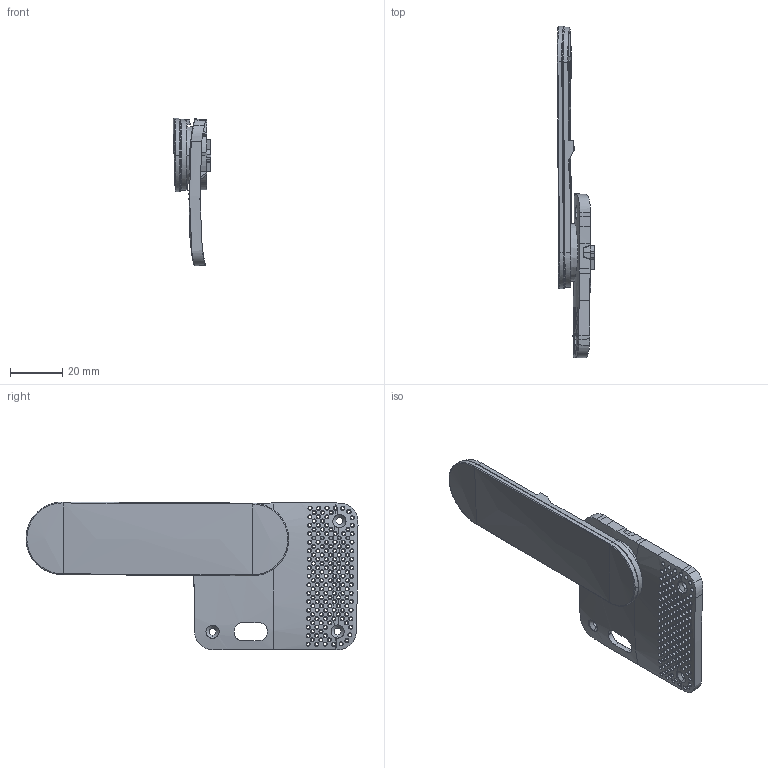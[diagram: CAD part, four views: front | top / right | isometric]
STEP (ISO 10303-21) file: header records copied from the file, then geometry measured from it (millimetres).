
FILE_DESCRIPTION (( 'STEP AP203' ), '1' );
FILE_NAME ('2002-03698_Head_Strap_Anchor_Point_-_R_(Simplified)_00.step', '2024-10-25T10:35:46', ( '' ), ( '' ), 'SwSTEP 2.0', 'SolidWorks 2021', '' );
FILE_SCHEMA (( 'CONFIG_CONTROL_DESIGN' ));
Products named in the file (3): 2002-0006577; 2002-03698_Head_Strap_Anchor_Point_-_R_(Simplified)_00; 2002-0003739
Assembly tree (2 placements, depth 2):
  2002-03698_Head_Strap_Anchor_Point_-_R_(Simplified)_00
    2002-0003739
    2002-0006577
Bounding box: 14.43 x 126.62 x 56.38 mm (x, y, z)
Volume: 15481.9 mm3; surface area: 19273.8 mm2
Topology: 2 solids, 2 shells, 1086 faces, 3100 edges, 2043 vertices
Faces by surface type: bspline 815, plane 183, cone 80, cylinder 8
Entity records: 85931 total; most frequent: CARTESIAN_POINT 63871, ORIENTED_EDGE 6196, EDGE_CURVE 3098, B_SPLINE_CURVE_WITH_KNOTS 2374, VERTEX_POINT 2043, EDGE_LOOP 1439, DIRECTION 1363, FACE_OUTER_BOUND 1086
